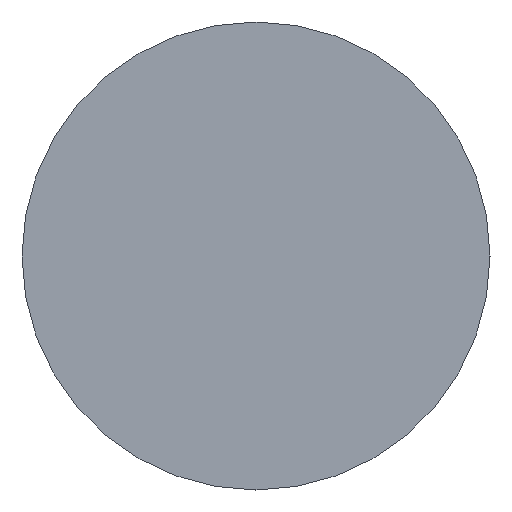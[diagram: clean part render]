
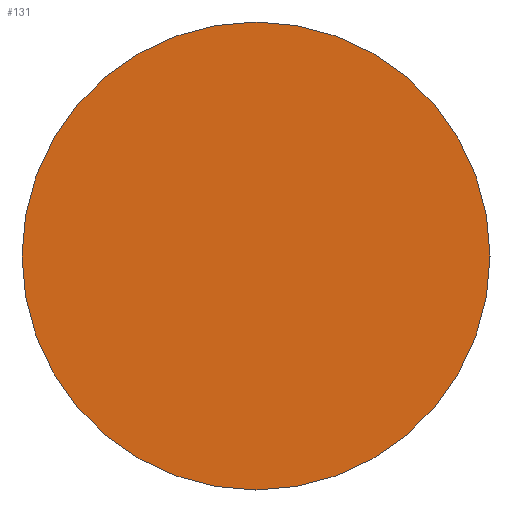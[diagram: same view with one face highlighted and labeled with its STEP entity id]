
A CAD part, left-side view. The second image highlights one B-rep face of the part: STEP entity #131.
In plain terms, the highlighted planar face has unit normal (-1, 0, 0).
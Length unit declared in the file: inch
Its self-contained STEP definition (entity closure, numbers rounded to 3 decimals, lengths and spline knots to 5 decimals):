
#8 = CIRCLE ( 'NONE', #392, 0.125 ) ;
#46 = EDGE_LOOP ( 'NONE', ( #63, #349 ) ) ;
#50 = CARTESIAN_POINT ( 'NONE',  ( -2.5, 0.125, 0. ) ) ;
#59 = DIRECTION ( 'NONE',  ( -1., 0., 0. ) ) ;
#63 = ORIENTED_EDGE ( 'NONE', *, *, #221, .T. ) ;
#82 = FACE_OUTER_BOUND ( 'NONE', #46, .T. ) ;
#90 = AXIS2_PLACEMENT_3D ( 'NONE', #156, #59, #391 ) ;
#93 = EDGE_CURVE ( 'NONE', #170, #345, #8, .T. ) ;
#131 = ADVANCED_FACE ( 'NONE', ( #82 ), #274, .F. ) ;
#149 = DIRECTION ( 'NONE',  ( 0., 0., 1. ) ) ;
#156 = CARTESIAN_POINT ( 'NONE',  ( -2.5, 0., 0. ) ) ;
#170 = VERTEX_POINT ( 'NONE', #195 ) ;
#184 = CIRCLE ( 'NONE', #90, 0.125 ) ;
#185 = DIRECTION ( 'NONE',  ( 1., 0., 0. ) ) ;
#195 = CARTESIAN_POINT ( 'NONE',  ( -2.5, 0., -0.125 ) ) ;
#221 = EDGE_CURVE ( 'NONE', #345, #170, #184, .T. ) ;
#249 = CARTESIAN_POINT ( 'NONE',  ( -2.5, 0., 0.125 ) ) ;
#274 = PLANE ( 'NONE',  #338 ) ;
#305 = DIRECTION ( 'NONE',  ( -1., 0., 0. ) ) ;
#316 = CARTESIAN_POINT ( 'NONE',  ( -2.5, 0., 0. ) ) ;
#318 = DIRECTION ( 'NONE',  ( 0., 0., -1. ) ) ;
#338 = AXIS2_PLACEMENT_3D ( 'NONE', #50, #185, #318 ) ;
#345 = VERTEX_POINT ( 'NONE', #249 ) ;
#349 = ORIENTED_EDGE ( 'NONE', *, *, #93, .T. ) ;
#391 = DIRECTION ( 'NONE',  ( 0., 0., 1. ) ) ;
#392 = AXIS2_PLACEMENT_3D ( 'NONE', #316, #305, #149 ) ;
